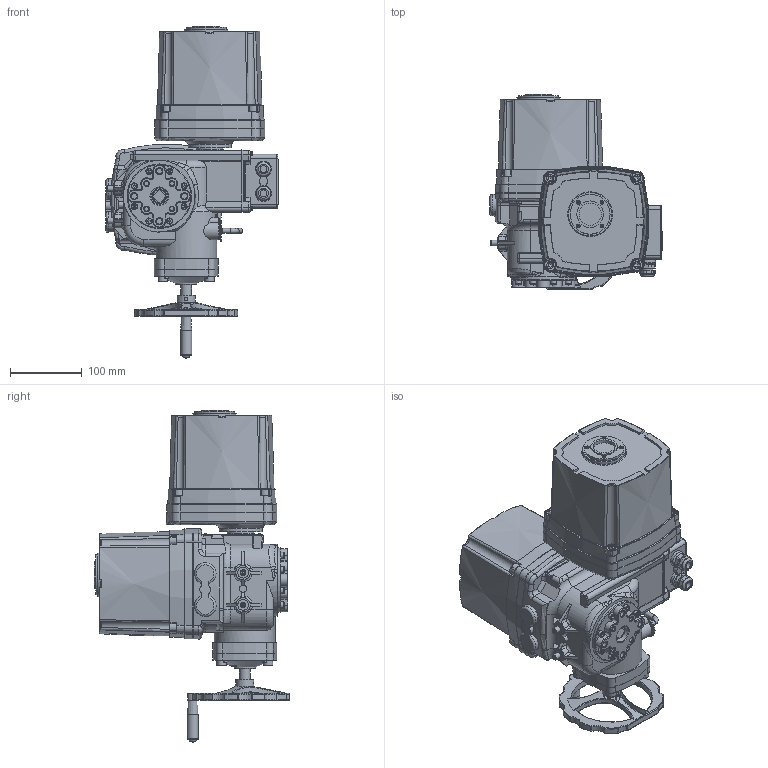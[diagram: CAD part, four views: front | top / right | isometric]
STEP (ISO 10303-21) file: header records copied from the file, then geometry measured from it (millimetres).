
FILE_DESCRIPTION(/* description */ ('D300-04899','CAx-IF Rec.Pracs.---Representation and Presentation of Product Manufacturing Information (PMI)---4.0---2014-10-13'),/* implementation_level */ '2;1');
FILE_NAME(/* name */ '',/* time_stamp */ '2026-03-31T00:36:28+03:00',/* author */ ('DN.RU'),/* organization */ ('DN.RU'),/* preprocessor_version */ 'ST-DEVELOPER v20',/* originating_system */ 'Autodesk Inventor 2025',/* authorisation */ '');
FILE_SCHEMA (('AP242_MANAGED_MODEL_BASED_3D_ENGINEERING_MIM_LF { 1 0 10303 442 1 1 4 }'));
Length unit declared in the file: millimetre
Products named in the file (1): QT-EX-010EM-O2-220VAC-У1
Bounding box: 240.35 x 272.4 x 463.27 mm (x, y, z)
Volume: 8356150.1 mm3; surface area: 461892.9 mm2
Topology: 1 solids, 9 shells, 3048 faces, 7887 edges, 5054 vertices
Faces by surface type: plane 1207, cylinder 622, bspline 587, torus 281, cone 251, sphere 100
Full cylindrical faces by diameter (mm): 2.224 x8, 2.5 x8, 3 x11, 5 x9, 5.5 x3, 6 x12, 7 x3, 8 x10, 8.5 x8, 9.75 x2, 10.41 x1, 12.75 x2, 13 x4, 15 x6, 15.364 x1, 19.486 x2, 20 x1, 21 x1, 24 x1, 25 x2, 30 x2, 30.978 x2, 37.108 x2, 37.27 x1, 37.5 x1, 55.739 x2, 60 x1, 60.598 x2, 85 x1, 90 x1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
Entity records: 113857 total; most frequent: CARTESIAN_POINT 40272, ORIENTED_EDGE 15694, DIRECTION 13298, EDGE_CURVE 7847, VERTEX_POINT 5054, AXIS2_PLACEMENT_3D 4985, LINE 3328, VECTOR 3328
